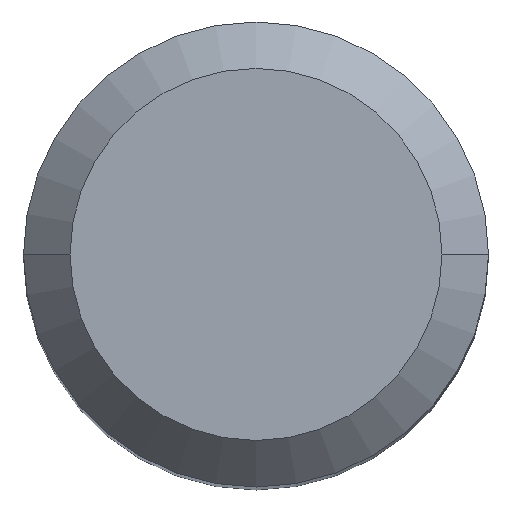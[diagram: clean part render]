
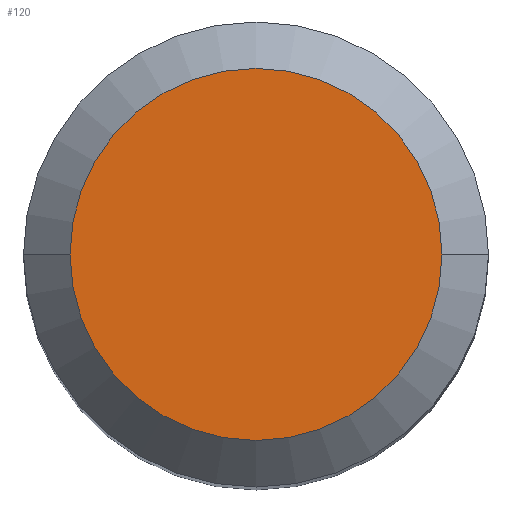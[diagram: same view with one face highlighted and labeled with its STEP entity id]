
A CAD part, top view. The second image highlights one B-rep face of the part: STEP entity #120.
In plain terms, the highlighted planar face has unit normal (0, 0, 1).
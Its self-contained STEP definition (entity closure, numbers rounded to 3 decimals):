
#59 = AXIS2_PLACEMENT_3D ( 'NONE', #75, #561, #354 ) ;
#66 = CARTESIAN_POINT ( 'NONE',  ( 0., 0., 0. ) ) ;
#71 = AXIS2_PLACEMENT_3D ( 'NONE', #66, #470, #614 ) ;
#73 = VERTEX_POINT ( 'NONE', #329 ) ;
#75 = CARTESIAN_POINT ( 'NONE',  ( 0., 4.8, 0. ) ) ;
#98 = EDGE_CURVE ( 'NONE', #73, #263, #427, .T. ) ;
#120 = ADVANCED_FACE ( 'NONE', ( #468 ), #157, .T. ) ;
#157 = PLANE ( 'NONE',  #59 ) ;
#209 = EDGE_LOOP ( 'NONE', ( #371, #296 ) ) ;
#263 = VERTEX_POINT ( 'NONE', #498 ) ;
#275 = EDGE_CURVE ( 'NONE', #263, #73, #594, .T. ) ;
#296 = ORIENTED_EDGE ( 'NONE', *, *, #275, .F. ) ;
#329 = CARTESIAN_POINT ( 'NONE',  ( -4.8, 0., 0. ) ) ;
#354 = DIRECTION ( 'NONE',  ( 1., 0., 0. ) ) ;
#371 = ORIENTED_EDGE ( 'NONE', *, *, #98, .F. ) ;
#427 = CIRCLE ( 'NONE', #71, 4.8 ) ;
#468 = FACE_OUTER_BOUND ( 'NONE', #209, .T. ) ;
#470 = DIRECTION ( 'NONE',  ( 0., 0., -1. ) ) ;
#492 = DIRECTION ( 'NONE',  ( 0., 0., -1. ) ) ;
#498 = CARTESIAN_POINT ( 'NONE',  ( 4.8, 0., 0. ) ) ;
#501 = CARTESIAN_POINT ( 'NONE',  ( 0., 0., 0. ) ) ;
#517 = AXIS2_PLACEMENT_3D ( 'NONE', #501, #492, #652 ) ;
#561 = DIRECTION ( 'NONE',  ( 0., 0., 1. ) ) ;
#594 = CIRCLE ( 'NONE', #517, 4.8 ) ;
#614 = DIRECTION ( 'NONE',  ( -1., 0., 0. ) ) ;
#652 = DIRECTION ( 'NONE',  ( -1., 0., 0. ) ) ;
